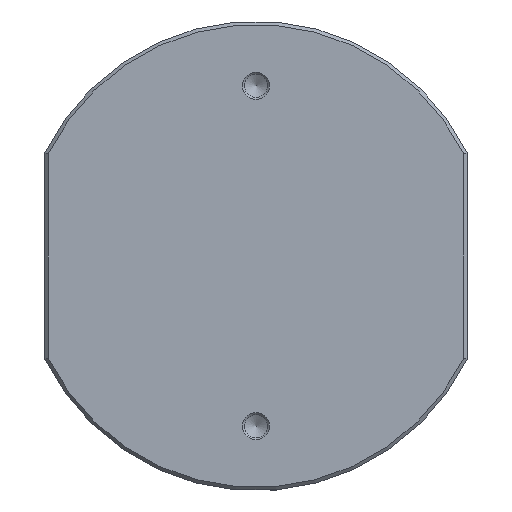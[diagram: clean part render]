
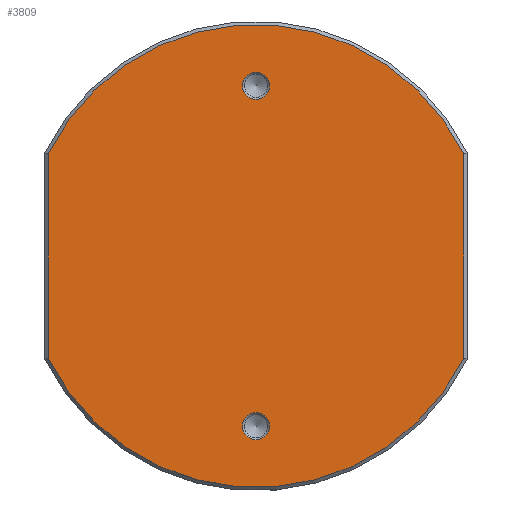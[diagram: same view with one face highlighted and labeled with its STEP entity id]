
A CAD part, front view. The second image highlights one B-rep face of the part: STEP entity #3809.
In plain terms, the highlighted planar face has unit normal (0, -1, 0).
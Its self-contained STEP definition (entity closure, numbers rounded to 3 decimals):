
#2212=PLANE('',#12154);
#2522=LINE('',#16730,#3068);
#2523=LINE('',#16734,#3069);
#3068=VECTOR('',#13507,1.);
#3069=VECTOR('',#13510,1.);
#3809=ADVANCED_FACE('',(#4703,#4704,#4705),#2212,.F.);
#4703=FACE_BOUND('',#5260,.T.);
#4704=FACE_BOUND('',#5261,.T.);
#4705=FACE_BOUND('',#5262,.T.);
#5260=EDGE_LOOP('',(#6278,#6279,#6280,#6281));
#5261=EDGE_LOOP('',(#6282));
#5262=EDGE_LOOP('',(#6283));
#6278=ORIENTED_EDGE('',*,*,#9918,.T.);
#6279=ORIENTED_EDGE('',*,*,#9919,.T.);
#6280=ORIENTED_EDGE('',*,*,#9920,.T.);
#6281=ORIENTED_EDGE('',*,*,#9921,.T.);
#6282=ORIENTED_EDGE('',*,*,#9916,.T.);
#6283=ORIENTED_EDGE('',*,*,#9913,.T.);
#8991=VERTEX_POINT('',#16714);
#8994=VERTEX_POINT('',#16722);
#8996=VERTEX_POINT('',#16728);
#8997=VERTEX_POINT('',#16729);
#8998=VERTEX_POINT('',#16731);
#8999=VERTEX_POINT('',#16733);
#9913=EDGE_CURVE('',#8991,#8991,#11273,.T.);
#9916=EDGE_CURVE('',#8994,#8994,#11276,.T.);
#9918=EDGE_CURVE('',#8996,#8997,#11278,.T.);
#9919=EDGE_CURVE('',#8997,#8998,#2522,.T.);
#9920=EDGE_CURVE('',#8998,#8999,#11279,.T.);
#9921=EDGE_CURVE('',#8999,#8996,#2523,.T.);
#11273=CIRCLE('',#12143,4.);
#11276=CIRCLE('',#12148,4.);
#11278=CIRCLE('',#12152,68.);
#11279=CIRCLE('',#12153,68.);
#12143=AXIS2_PLACEMENT_3D('',#16713,#13487,#13488);
#12148=AXIS2_PLACEMENT_3D('',#16721,#13497,#13498);
#12152=AXIS2_PLACEMENT_3D('',#16727,#13505,#13506);
#12153=AXIS2_PLACEMENT_3D('',#16732,#13508,#13509);
#12154=AXIS2_PLACEMENT_3D('',#16735,#13511,#13512);
#13487=DIRECTION('',(0.,1.,0.));
#13488=DIRECTION('',(0.,0.,1.));
#13497=DIRECTION('',(0.,1.,0.));
#13498=DIRECTION('',(0.,0.,1.));
#13505=DIRECTION('',(0.,-1.,0.));
#13506=DIRECTION('',(0.,0.,1.));
#13507=DIRECTION('',(0.,0.,1.));
#13508=DIRECTION('',(0.,-1.,0.));
#13509=DIRECTION('',(0.,0.,1.));
#13510=DIRECTION('',(0.,0.,-1.));
#13511=DIRECTION('',(0.,1.,0.));
#13512=DIRECTION('',(0.,0.,-1.));
#16713=CARTESIAN_POINT('',(53.409,7.,-105.5));
#16714=CARTESIAN_POINT('',(53.409,7.,-101.5));
#16721=CARTESIAN_POINT('',(53.41,7.,-5.5));
#16722=CARTESIAN_POINT('',(53.41,7.,-1.5));
#16727=CARTESIAN_POINT('',(53.41,7.,-55.5));
#16728=CARTESIAN_POINT('',(-7.591,7.,-85.55));
#16729=CARTESIAN_POINT('',(114.41,7.,-85.55));
#16730=CARTESIAN_POINT('',(114.41,7.,-111.));
#16731=CARTESIAN_POINT('',(114.41,7.,-25.45));
#16732=CARTESIAN_POINT('',(53.41,7.,-55.5));
#16733=CARTESIAN_POINT('',(-7.591,7.,-25.45));
#16734=CARTESIAN_POINT('',(-7.591,7.,-111.));
#16735=CARTESIAN_POINT('',(1.41,7.,-111.));
